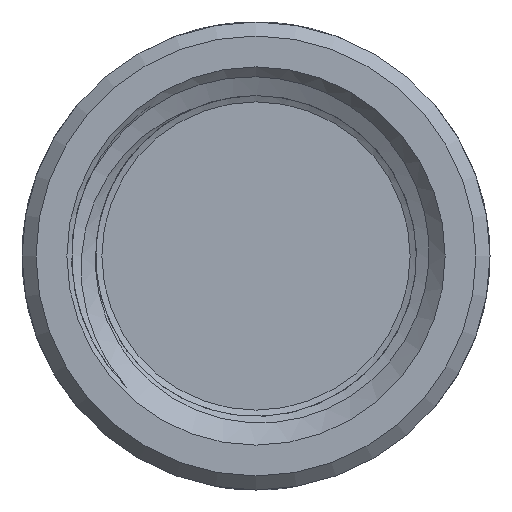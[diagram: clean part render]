
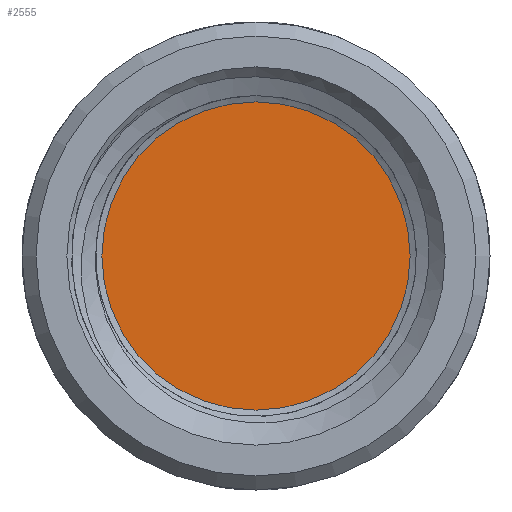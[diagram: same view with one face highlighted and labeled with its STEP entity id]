
A CAD part, left-side view. The second image highlights one B-rep face of the part: STEP entity #2555.
In plain terms, the highlighted planar face has unit normal (-1, 0, 0).
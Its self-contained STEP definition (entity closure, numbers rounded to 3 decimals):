
#2555 = ADVANCED_FACE ( 'NONE', ( #24887 ), #34076, .T. ) ;
#6127 = CARTESIAN_POINT ( 'NONE',  ( 13.555, 8.35, 0. ) ) ;
#9585 = ORIENTED_EDGE ( 'NONE', *, *, #37362, .F. ) ;
#9851 = CIRCLE ( 'NONE', #21601, 5.5 ) ;
#18555 = DIRECTION ( 'NONE',  ( -1., 0., 0. ) ) ;
#19018 = VERTEX_POINT ( 'NONE', #31055 ) ;
#21601 = AXIS2_PLACEMENT_3D ( 'NONE', #39632, #33739, #24155 ) ;
#24049 = EDGE_LOOP ( 'NONE', ( #9585 ) ) ;
#24155 = DIRECTION ( 'NONE',  ( 0., 0., 1. ) ) ;
#24887 = FACE_OUTER_BOUND ( 'NONE', #24049, .T. ) ;
#31012 = DIRECTION ( 'NONE',  ( 0., 0., 1. ) ) ;
#31055 = CARTESIAN_POINT ( 'NONE',  ( 13.555, 0., 5.5 ) ) ;
#31214 = AXIS2_PLACEMENT_3D ( 'NONE', #6127, #18555, #31012 ) ;
#33739 = DIRECTION ( 'NONE',  ( 1., 0., 0. ) ) ;
#34076 = PLANE ( 'NONE',  #31214 ) ;
#37362 = EDGE_CURVE ( 'NONE', #19018, #19018, #9851, .T. ) ;
#39632 = CARTESIAN_POINT ( 'NONE',  ( 13.555, 0., 0. ) ) ;
